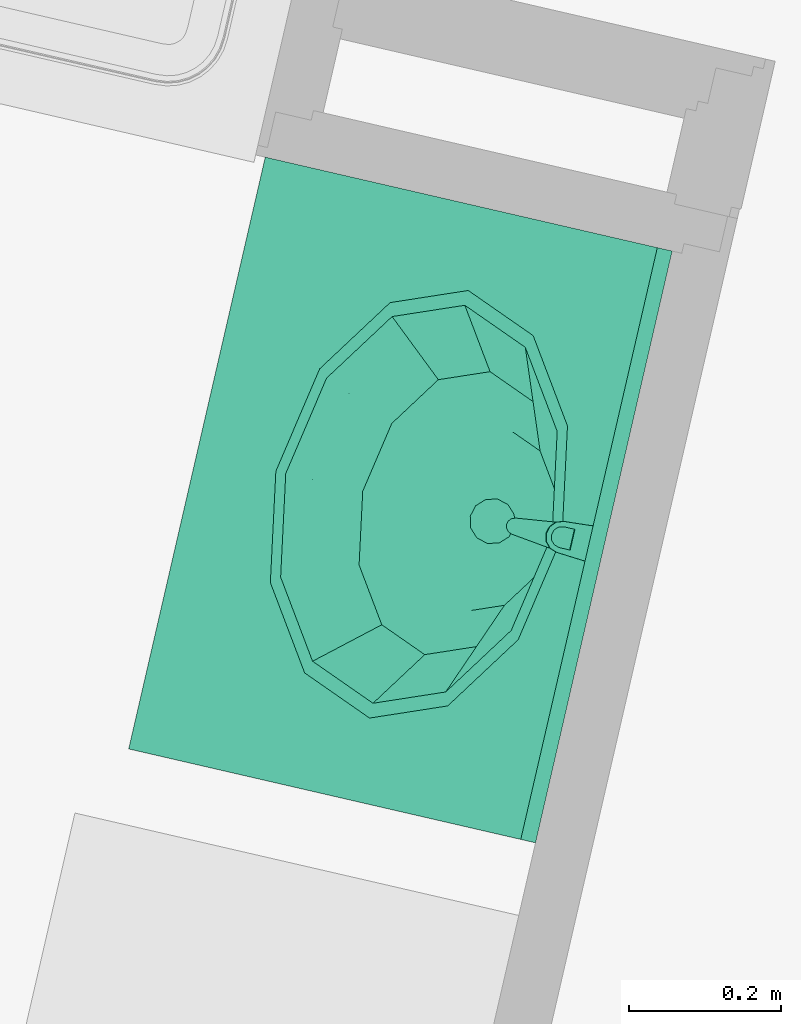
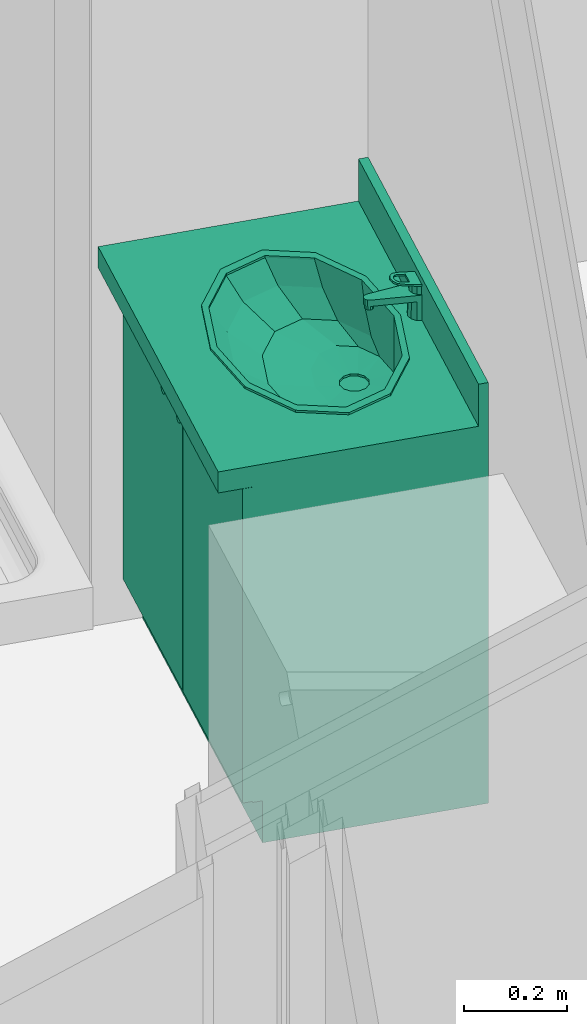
# One storey, part 93 of 119: 1 flow terminal.
"""IFC2X3 building model written with IfcOpenShell, lengths in metres."""

from ifc_helpers import new_model, entity, si_unit, converted_unit, derived_unit, money_unit, direction, frame, origin_with_axes, place, context, subcontext, project, spatial, open_shell, faceted_brep, surface_model, source, transform, mapped, type_object, element, save


model = new_model("IFC2X3")

# Units and contexts
model_context = context("Model", 3, precision=1e-05, world=origin_with_axes(), true_north=direction((0.0, 1.0)))
body_context = subcontext(model_context, "Body", "Model", "MODEL_VIEW")
ifc_project = project(units=[si_unit("LENGTHUNIT", "METRE"), si_unit("AREAUNIT", "SQUARE_METRE"), si_unit("VOLUMEUNIT", "CUBIC_METRE"), converted_unit("PLANEANGLEUNIT", "DEGREE", entity("IfcPlaneAngleMeasure", 0.0174532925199), si_unit("PLANEANGLEUNIT", "RADIAN"), dimensions=[0, 0, 0, 0, 0, 0, 0]), si_unit("SOLIDANGLEUNIT", "STERADIAN"), money_unit("EUR"), converted_unit("TIMEUNIT", "Year", entity("IfcTimeMeasure", 31556926.0), si_unit("TIMEUNIT", "SECOND"), dimensions=[0, 0, 1, 0, 0, 0, 0]), si_unit("MASSUNIT", "GRAM", prefix="KILO"), si_unit("THERMODYNAMICTEMPERATUREUNIT", "DEGREE_CELSIUS"), si_unit("LUMINOUSINTENSITYUNIT", "LUMEN"), si_unit("ENERGYUNIT", "JOULE", prefix="MEGA"), derived_unit("THERMALCONDUCTANCEUNIT", [(si_unit("POWERUNIT", "WATT"), 1), (si_unit("LENGTHUNIT", "METRE"), -1), (si_unit("THERMODYNAMICTEMPERATUREUNIT", "KELVIN"), -1)]), derived_unit("SPECIFICHEATCAPACITYUNIT", [(si_unit("ENERGYUNIT", "JOULE"), 1), (si_unit("MASSUNIT", "GRAM", prefix="KILO"), -1), (si_unit("THERMODYNAMICTEMPERATUREUNIT", "KELVIN"), -1)]), derived_unit("MASSDENSITYUNIT", [(si_unit("MASSUNIT", "GRAM", prefix="KILO"), 1), (si_unit("VOLUMEUNIT", "CUBIC_METRE"), -1)])], contexts=[model_context])

# Site, building, storey
site_placement = place(None, origin_with_axes())
site = spatial("IfcSite", under=ifc_project, at=site_placement, Name="Site", CompositionType="ELEMENT")
building_placement = place(site_placement, origin_with_axes())
building = spatial("IfcBuilding", under=site, at=building_placement, Name="Bâtiment", CompositionType="ELEMENT")
storey_placement = place(building_placement, origin_with_axes())
storey = spatial("IfcBuildingStorey", under=building, at=storey_placement, Name="Rez-de-chaussée", CompositionType="ELEMENT", Elevation=0.0)

# Flow terminal
sanitary_terminal_type = type_object("IfcSanitaryTerminalType", Name="Lavabo sur meuble 23", PredefinedType="NOTDEFINED")
shared_shape = source(origin_with_axes(), body_context, "Body", "SurfaceModel", [
    faceted_brep([(0.0, 0.09, 0.0), (0.0, 0.09, 0.1), (-0.8, 0.09, 0.1), (-0.8, 0.09, 0.0), (0.0, 0.55, 0.0), (0.0, 0.55, 0.1), (-0.8, 0.55, 0.1), (-0.8, 0.55, 0.0)], [[[0, 1, 2, 3]], [[4, 5, 1, 0]], [[1, 5, 6, 2]], [[3, 2, 6, 7]], [[0, 3, 7, 4]], [[7, 6, 5, 4]]]),
    faceted_brep([(0.0, 0.07, 0.1), (0.0, 0.07, 0.12), (-0.02, 0.07, 0.12), (-0.02, 0.07, 0.1), (0.0, 0.55, 0.1), (0.0, 0.55, 0.12), (-0.02, 0.55, 0.12), (-0.78, 0.55, 0.12), (-0.8, 0.55, 0.12), (-0.8, 0.07, 0.12), (-0.78, 0.07, 0.12), (-0.78, 0.07, 0.1), (-0.8, 0.07, 0.1), (-0.8, 0.55, 0.1), (-0.78, 0.55, 0.1), (-0.02, 0.55, 0.1)], [[[0, 1, 2, 3]], [[4, 5, 1, 0]], [[1, 5, 6, 7, 8, 9, 10, 2]], [[3, 2, 10, 11]], [[0, 3, 11, 12, 13, 14, 15, 4]], [[15, 6, 5, 4]], [[14, 7, 6, 15]], [[13, 8, 7, 14]], [[12, 9, 8, 13]], [[11, 10, 9, 12]]]),
    faceted_brep([(0.0, 0.07, 0.12), (0.0, 0.07, 0.85), (-0.02, 0.07, 0.85), (-0.02, 0.07, 0.12), (0.0, 0.55, 0.12), (0.0, 0.55, 0.85), (-0.8, 0.55, 0.85), (-0.8, 0.07, 0.85), (-0.78, 0.07, 0.85), (-0.78, 0.53, 0.85), (-0.02, 0.53, 0.85), (-0.02, 0.53, 0.12), (-0.78, 0.53, 0.12), (-0.78, 0.07, 0.12), (-0.8, 0.07, 0.12), (-0.8, 0.55, 0.12)], [[[0, 1, 2, 3]], [[4, 5, 1, 0]], [[1, 5, 6, 7, 8, 9, 10, 2]], [[3, 2, 10, 11]], [[0, 3, 11, 12, 13, 14, 15, 4]], [[15, 6, 5, 4]], [[14, 7, 6, 15]], [[13, 8, 7, 14]], [[12, 9, 8, 13]], [[11, 10, 9, 12]]]),
    faceted_brep([(-0.78, 0.07, 0.323333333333), (-0.78, 0.07, 0.343333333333), (-0.78, 0.53, 0.343333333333), (-0.78, 0.53, 0.323333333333), (-0.02, 0.07, 0.323333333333), (-0.02, 0.07, 0.343333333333), (-0.02, 0.53, 0.343333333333), (-0.02, 0.53, 0.323333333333)], [[[0, 1, 2, 3]], [[4, 5, 1, 0]], [[1, 5, 6, 2]], [[3, 2, 6, 7]], [[0, 3, 7, 4]], [[7, 6, 5, 4]]]),
    faceted_brep([(-0.78, 0.07, 0.566666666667), (-0.78, 0.07, 0.586666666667), (-0.78, 0.53, 0.586666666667), (-0.78, 0.53, 0.566666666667), (-0.02, 0.07, 0.566666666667), (-0.02, 0.07, 0.586666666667), (-0.02, 0.53, 0.586666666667), (-0.02, 0.53, 0.566666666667)], [[[0, 1, 2, 3]], [[4, 5, 1, 0]], [[1, 5, 6, 2]], [[3, 2, 6, 7]], [[0, 3, 7, 4]], [[7, 6, 5, 4]]]),
    faceted_brep([(0.0, 0.55, 0.85), (0.0, 0.0, 0.85), (-0.8, 0.0, 0.85), (-0.8, 0.55, 0.85), (-0.535, 0.144115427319, 0.85), (-0.4, 0.12, 0.85), (-0.265, 0.144115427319, 0.85), (-0.166173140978, 0.21, 0.85), (-0.13, 0.3, 0.85), (-0.166173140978, 0.39, 0.85), (-0.265, 0.455884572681, 0.85), (-0.4, 0.48, 0.85), (-0.535, 0.455884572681, 0.85), (-0.633826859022, 0.39, 0.85), (-0.67, 0.3, 0.85), (-0.633826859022, 0.21, 0.85), (0.0, 0.55, 0.9), (0.0, 0.0, 0.9), (-0.8, 0.0, 0.9), (-0.8, 0.55, 0.9), (-0.4, 0.12, 0.9), (-0.535, 0.144115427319, 0.9), (-0.265, 0.144115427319, 0.9), (-0.166173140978, 0.21, 0.9), (-0.13, 0.3, 0.9), (-0.166173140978, 0.39, 0.9), (-0.265, 0.455884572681, 0.9), (-0.4, 0.48, 0.9), (-0.535, 0.455884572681, 0.9), (-0.633826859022, 0.39, 0.9), (-0.67, 0.3, 0.9), (-0.633826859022, 0.21, 0.9)], [[[0, 1, 2, 3], [4, 5, 6, 7, 8, 9, 10, 11, 12, 13, 14, 15]], [[1, 0, 16, 17]], [[2, 1, 17, 18]], [[3, 2, 18, 19]], [[0, 3, 19, 16]], [[20, 5, 4, 21]], [[22, 6, 5, 20]], [[23, 7, 6, 22]], [[24, 8, 7, 23]], [[25, 9, 8, 24]], [[26, 10, 9, 25]], [[27, 11, 10, 26]], [[28, 12, 11, 27]], [[29, 13, 12, 28]], [[30, 14, 13, 29]], [[31, 15, 14, 30]], [[21, 4, 15, 31]], [[18, 17, 16, 19], [28, 27, 26, 25, 24, 23, 22, 20, 21, 31, 30, 29]]]),
    faceted_brep([(0.0, 0.53, 0.9), (0.0, 0.53, 1.0), (-0.8, 0.53, 1.0), (-0.8, 0.53, 0.9), (0.0, 0.55, 0.9), (0.0, 0.55, 1.0), (-0.8, 0.55, 1.0), (-0.8, 0.55, 0.9)], [[[0, 1, 2, 3]], [[4, 5, 1, 0]], [[1, 5, 6, 2]], [[3, 2, 6, 7]], [[0, 3, 7, 4]], [[7, 6, 5, 4]]]),
    faceted_brep([(-0.689, 0.3, 0.905), (-0.650281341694, 0.396691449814, 0.905), (-0.650281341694, 0.396691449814, 0.9), (-0.689, 0.3, 0.9), (-0.650281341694, 0.203308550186, 0.905), (-0.5445, 0.132525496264, 0.905), (-0.4, 0.106617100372, 0.905), (-0.2555, 0.132525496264, 0.905), (-0.149718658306, 0.203308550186, 0.905), (-0.111, 0.3, 0.905), (-0.149718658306, 0.396691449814, 0.905), (-0.2555, 0.467474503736, 0.905), (-0.4, 0.493382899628, 0.905), (-0.5445, 0.467474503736, 0.905), (-0.669, 0.3, 0.905), (-0.632960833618, 0.39, 0.905), (-0.5345, 0.455884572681, 0.905), (-0.4, 0.48, 0.905), (-0.2655, 0.455884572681, 0.905), (-0.167039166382, 0.39, 0.905), (-0.131, 0.3, 0.905), (-0.167039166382, 0.21, 0.905), (-0.2655, 0.144115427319, 0.905), (-0.4, 0.12, 0.905), (-0.5345, 0.144115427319, 0.905), (-0.632960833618, 0.21, 0.905), (-0.5445, 0.467474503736, 0.9), (-0.4, 0.493382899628, 0.9), (-0.2555, 0.467474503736, 0.9), (-0.149718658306, 0.396691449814, 0.9), (-0.111, 0.3, 0.9), (-0.149718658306, 0.203308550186, 0.9), (-0.2555, 0.132525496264, 0.9), (-0.4, 0.106617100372, 0.9), (-0.5445, 0.132525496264, 0.9), (-0.650281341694, 0.203308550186, 0.9), (-0.669, 0.3, 0.9), (-0.632960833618, 0.21, 0.9), (-0.5345, 0.144115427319, 0.9), (-0.4, 0.12, 0.9), (-0.2655, 0.144115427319, 0.9), (-0.167039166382, 0.21, 0.9), (-0.131, 0.3, 0.9), (-0.167039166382, 0.39, 0.9), (-0.2655, 0.455884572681, 0.9), (-0.4, 0.48, 0.9), (-0.5345, 0.455884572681, 0.9), (-0.632960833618, 0.39, 0.9)], [[[0, 1, 2, 3]], [[0, 4, 5, 6, 7, 8, 9, 10, 11, 12, 13, 1], [14, 15, 16, 17, 18, 19, 20, 21, 22, 23, 24, 25]], [[1, 13, 26, 2]], [[3, 2, 26, 27, 28, 29, 30, 31, 32, 33, 34, 35], [36, 37, 38, 39, 40, 41, 42, 43, 44, 45, 46, 47]], [[4, 0, 3, 35]], [[5, 4, 35, 34]], [[6, 5, 34, 33]], [[7, 6, 33, 32]], [[8, 7, 32, 31]], [[9, 8, 31, 30]], [[10, 9, 30, 29]], [[11, 10, 29, 28]], [[12, 11, 28, 27]], [[13, 12, 27, 26]], [[15, 14, 36, 47]], [[16, 15, 47, 46]], [[17, 16, 46, 45]], [[18, 17, 45, 44]], [[19, 18, 44, 43]], [[20, 19, 43, 42]], [[21, 20, 42, 41]], [[22, 21, 41, 40]], [[23, 22, 40, 39]], [[24, 23, 39, 38]], [[25, 24, 38, 37]], [[14, 25, 37, 36]]]),
    surface_model("IfcShellBasedSurfaceModel", [(-0.4, 0.48, 0.9), (-0.5345, 0.455884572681, 0.9), (-0.52105, 0.458296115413, 0.848), (-0.4, 0.48, 0.848), (-0.632960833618, 0.39, 0.9), (-0.609664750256, 0.399, 0.848), (-0.2655, 0.455884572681, 0.9), (-0.27895, 0.458296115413, 0.848), (-0.669, 0.3, 0.9), (-0.6421, 0.318, 0.848), (-0.167039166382, 0.39, 0.9), (-0.190335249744, 0.399, 0.848), (-0.632960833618, 0.21, 0.9), (-0.609664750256, 0.237, 0.848), (-0.131, 0.3, 0.9), (-0.1579, 0.318, 0.848), (-0.5345, 0.144115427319, 0.9), (-0.52105, 0.177703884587, 0.848), (-0.167039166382, 0.21, 0.9), (-0.190335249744, 0.237, 0.848), (-0.4, 0.12, 0.9), (-0.4, 0.156, 0.848), (-0.2655, 0.144115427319, 0.9), (-0.27895, 0.177703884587, 0.848)], [open_shell([[[0, 1, 2, 3]], [[1, 4, 5, 2]], [[6, 0, 3, 7]], [[4, 8, 9, 5]], [[10, 6, 7, 11]], [[8, 12, 13, 9]], [[14, 10, 11, 15]], [[12, 16, 17, 13]], [[18, 14, 15, 19]], [[16, 20, 21, 17]], [[22, 18, 19, 23]], [[20, 22, 23, 21]]])]),
    surface_model("IfcShellBasedSurfaceModel", [(-0.4, 0.48, 0.848), (-0.52105, 0.458296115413, 0.848), (-0.4956295, 0.462853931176, 0.796), (-0.4, 0.48, 0.796), (-0.609664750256, 0.399, 0.848), (-0.565635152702, 0.41601, 0.796), (-0.27895, 0.458296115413, 0.848), (-0.3043705, 0.462853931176, 0.796), (-0.6421, 0.318, 0.848), (-0.591259, 0.35202, 0.796), (-0.190335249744, 0.399, 0.848), (-0.234364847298, 0.41601, 0.796), (-0.609664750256, 0.237, 0.848), (-0.565635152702, 0.28803, 0.796), (-0.1579, 0.318, 0.848), (-0.208741, 0.35202, 0.796), (-0.52105, 0.177703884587, 0.848), (-0.4956295, 0.241186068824, 0.796), (-0.190335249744, 0.237, 0.848), (-0.234364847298, 0.28803, 0.796), (-0.4, 0.156, 0.848), (-0.4, 0.22404, 0.796), (-0.27895, 0.177703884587, 0.848), (-0.3043705, 0.241186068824, 0.796)], [open_shell([[[0, 1, 2, 3]], [[1, 4, 5, 2]], [[6, 0, 3, 7]], [[4, 8, 9, 5]], [[10, 6, 7, 11]], [[8, 12, 13, 9]], [[14, 10, 11, 15]], [[12, 16, 17, 13]], [[18, 14, 15, 19]], [[16, 20, 21, 17]], [[22, 18, 19, 23]], [[20, 22, 23, 21]]])]),
    surface_model("IfcShellBasedSurfaceModel", [(-0.4, 0.48, 0.796), (-0.4956295, 0.462853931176, 0.796), (-0.460246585, 0.469197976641, 0.77), (-0.4, 0.48, 0.77), (-0.565635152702, 0.41601, 0.796), (-0.504350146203, 0.4396863, 0.77), (-0.3043705, 0.462853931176, 0.796), (-0.339753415, 0.469197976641, 0.77), (-0.591259, 0.35202, 0.796), (-0.52049317, 0.3993726, 0.77), (-0.234364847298, 0.41601, 0.796), (-0.295649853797, 0.4396863, 0.77), (-0.565635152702, 0.28803, 0.796), (-0.504350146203, 0.3590589, 0.77), (-0.208741, 0.35202, 0.796), (-0.27950683, 0.3993726, 0.77), (-0.4956295, 0.241186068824, 0.796), (-0.460246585, 0.329547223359, 0.77), (-0.234364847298, 0.28803, 0.796), (-0.295649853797, 0.3590589, 0.77), (-0.4, 0.22404, 0.796), (-0.4, 0.3187452, 0.77), (-0.3043705, 0.241186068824, 0.796), (-0.339753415, 0.329547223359, 0.77)], [open_shell([[[0, 1, 2, 3]], [[1, 4, 5, 2]], [[6, 0, 3, 7]], [[4, 8, 9, 5]], [[10, 6, 7, 11]], [[8, 12, 13, 9]], [[14, 10, 11, 15]], [[12, 16, 17, 13]], [[18, 14, 15, 19]], [[16, 20, 21, 17]], [[22, 18, 19, 23]], [[20, 22, 23, 21]]])]),
    surface_model("IfcShellBasedSurfaceModel", [(-0.4, 0.48, 0.77), (-0.460246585, 0.469197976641, 0.77), (-0.415, 0.425353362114, 0.763), (-0.425980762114, 0.4143726, 0.763), (-0.4, 0.4293726, 0.763), (-0.504350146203, 0.4396863, 0.77), (-0.339753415, 0.469197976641, 0.77), (-0.43, 0.3993726, 0.763), (-0.385, 0.425353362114, 0.763), (-0.52049317, 0.3993726, 0.77), (-0.295649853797, 0.4396863, 0.77), (-0.425980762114, 0.3843726, 0.763), (-0.374019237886, 0.4143726, 0.763), (-0.504350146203, 0.3590589, 0.77), (-0.27950683, 0.3993726, 0.77), (-0.415, 0.373391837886, 0.763), (-0.37, 0.3993726, 0.763), (-0.460246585, 0.329547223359, 0.77), (-0.295649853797, 0.3590589, 0.77), (-0.4, 0.3693726, 0.763), (-0.374019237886, 0.3843726, 0.763), (-0.4, 0.3187452, 0.77), (-0.339753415, 0.329547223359, 0.77), (-0.385, 0.373391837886, 0.763)], [open_shell([[[0, 1, 2]], [[1, 3, 2]], [[0, 2, 4]], [[1, 5, 3]], [[6, 0, 4]], [[5, 7, 3]], [[6, 4, 8]], [[5, 9, 7]], [[10, 6, 8]], [[9, 11, 7]], [[10, 8, 12]], [[9, 13, 11]], [[14, 10, 12]], [[13, 15, 11]], [[14, 12, 16]], [[13, 17, 15]], [[18, 14, 16]], [[17, 19, 15]], [[18, 16, 20]], [[17, 21, 19]], [[22, 18, 20]], [[21, 23, 19]], [[22, 20, 23]], [[21, 22, 23]]])]),
    surface_model("IfcShellBasedSurfaceModel", [(-0.43, 0.3993726, 0.763), (-0.425980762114, 0.4143726, 0.763), (-0.425980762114, 0.4143726, 0.758), (-0.43, 0.3993726, 0.758), (-0.415, 0.425353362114, 0.763), (-0.415, 0.425353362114, 0.758), (-0.4, 0.4293726, 0.758), (-0.385, 0.425353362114, 0.758), (-0.374019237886, 0.4143726, 0.758), (-0.37, 0.3993726, 0.758), (-0.374019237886, 0.3843726, 0.758), (-0.385, 0.373391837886, 0.758), (-0.4, 0.3693726, 0.758), (-0.415, 0.373391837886, 0.758), (-0.425980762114, 0.3843726, 0.758), (-0.425980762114, 0.3843726, 0.763), (-0.4, 0.4293726, 0.763), (-0.385, 0.425353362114, 0.763), (-0.374019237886, 0.4143726, 0.763), (-0.37, 0.3993726, 0.763), (-0.374019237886, 0.3843726, 0.763), (-0.385, 0.373391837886, 0.763), (-0.4, 0.3693726, 0.763), (-0.415, 0.373391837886, 0.763)], [open_shell([[[0, 1, 2, 3]], [[1, 4, 5, 2]], [[3, 2, 5, 6, 7, 8, 9, 10, 11, 12, 13, 14]], [[15, 0, 3, 14]], [[4, 16, 6, 5]], [[16, 17, 7, 6]], [[17, 18, 8, 7]], [[18, 19, 9, 8]], [[19, 20, 10, 9]], [[20, 21, 11, 10]], [[21, 22, 12, 11]], [[22, 23, 13, 12]], [[23, 15, 14, 13]]])]),
    faceted_brep([(-0.4125, 0.554150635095, 0.9), (-0.410587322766, 0.550837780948, 0.976507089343), (-0.4, 0.553701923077, 0.975961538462), (-0.4, 0.5575, 0.9), (-0.421650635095, 0.545, 0.9), (-0.418273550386, 0.543050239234, 0.977990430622), (-0.421, 0.5325, 0.98), (-0.418100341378, 0.522049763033, 0.981990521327), (-0.410414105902, 0.514462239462, 0.983435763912), (-0.4, 0.511698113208, 0.983962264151), (-0.389585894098, 0.514462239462, 0.983435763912), (-0.381899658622, 0.522049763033, 0.981990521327), (-0.379, 0.5325, 0.98), (-0.381726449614, 0.543050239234, 0.977990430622), (-0.389412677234, 0.550837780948, 0.976507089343), (-0.3875, 0.554150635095, 0.9), (-0.378349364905, 0.545, 0.9), (-0.375, 0.5325, 0.9), (-0.378349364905, 0.52, 0.9), (-0.3875, 0.510849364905, 0.9), (-0.4, 0.5075, 0.9), (-0.4125, 0.510849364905, 0.9), (-0.421650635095, 0.52, 0.9), (-0.425, 0.5325, 0.9)], [[[0, 1, 2, 3]], [[4, 5, 1, 0]], [[1, 5, 6, 7, 8, 9, 10, 11, 12, 13, 14, 2]], [[3, 2, 14, 15]], [[0, 3, 15, 16, 17, 18, 19, 20, 21, 22, 23, 4]], [[23, 6, 5, 4]], [[22, 7, 6, 23]], [[21, 8, 7, 22]], [[20, 9, 8, 21]], [[19, 10, 9, 20]], [[18, 11, 10, 19]], [[17, 12, 11, 18]], [[16, 13, 12, 17]], [[15, 14, 13, 16]]]),
    faceted_brep([(-0.409, 0.4295, 0.935), (-0.409, 0.4295, 0.945), (-0.407794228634, 0.434, 0.945), (-0.407794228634, 0.434, 0.935), (-0.407794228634, 0.425, 0.935), (-0.407794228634, 0.425, 0.945), (-0.4045, 0.421705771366, 0.945), (-0.4, 0.4205, 0.945), (-0.3955, 0.421705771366, 0.945), (-0.392205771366, 0.425, 0.945), (-0.391, 0.4295, 0.945), (-0.392205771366, 0.434, 0.945), (-0.3955, 0.437294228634, 0.945), (-0.4, 0.4385, 0.945), (-0.4045, 0.437294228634, 0.945), (-0.4045, 0.437294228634, 0.935), (-0.4, 0.4385, 0.935), (-0.3955, 0.437294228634, 0.935), (-0.392205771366, 0.434, 0.935), (-0.391, 0.4295, 0.935), (-0.392205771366, 0.425, 0.935), (-0.3955, 0.421705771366, 0.935), (-0.4, 0.4205, 0.935), (-0.4045, 0.421705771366, 0.935)], [[[0, 1, 2, 3]], [[4, 5, 1, 0]], [[1, 5, 6, 7, 8, 9, 10, 11, 12, 13, 14, 2]], [[3, 2, 14, 15]], [[0, 3, 15, 16, 17, 18, 19, 20, 21, 22, 23, 4]], [[23, 6, 5, 4]], [[22, 7, 6, 23]], [[21, 8, 7, 22]], [[20, 9, 8, 21]], [[19, 10, 9, 20]], [[18, 11, 10, 19]], [[17, 12, 11, 18]], [[16, 13, 12, 17]], [[15, 14, 13, 16]]]),
    faceted_brep([(-0.387128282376, 0.552756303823, 0.96), (-0.40000000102, 0.556499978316, 0.96), (-0.412871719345, 0.552756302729, 0.96), (-0.421727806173, 0.542693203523, 0.96), (-0.423805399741, 0.529450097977, 0.96), (-0.410912, 0.4281117, 0.96), (-0.409028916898, 0.423216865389, 0.96), (-0.405093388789, 0.419750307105, 0.96), (-0.400000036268, 0.41850003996, 0.96), (-0.394906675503, 0.419750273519, 0.96), (-0.390971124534, 0.423216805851, 0.96), (-0.389088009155, 0.428111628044, 0.96), (-0.3761946, 0.5294501, 0.96), (-0.378272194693, 0.54269320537, 0.96), (-0.411, 0.551552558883, 0.96), (-0.4, 0.5545, 0.96), (-0.389, 0.551552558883, 0.96), (-0.380947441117, 0.5435, 0.96), (-0.378, 0.5325, 0.96), (-0.380947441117, 0.5215, 0.96), (-0.389, 0.513447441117, 0.96), (-0.4, 0.5105, 0.96), (-0.411, 0.513447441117, 0.96), (-0.419052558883, 0.5215, 0.96), (-0.422, 0.5325, 0.96), (-0.419052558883, 0.5435, 0.96), (-0.387128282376, 0.552756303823, 0.945), (-0.40000000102, 0.556499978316, 0.945), (-0.412871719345, 0.552756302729, 0.945), (-0.421727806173, 0.542693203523, 0.945), (-0.423805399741, 0.529450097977, 0.945), (-0.410912, 0.4281117, 0.945), (-0.409028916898, 0.423216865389, 0.945), (-0.405093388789, 0.419750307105, 0.945), (-0.400000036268, 0.41850003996, 0.945), (-0.394906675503, 0.419750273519, 0.945), (-0.390971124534, 0.423216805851, 0.945), (-0.389088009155, 0.428111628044, 0.945), (-0.3761946, 0.5294501, 0.945), (-0.378272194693, 0.54269320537, 0.945), (-0.4, 0.55525, 0.945), (-0.411375, 0.552202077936, 0.945), (-0.388625, 0.552202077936, 0.945), (-0.380297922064, 0.543875, 0.945), (-0.37725, 0.5325, 0.945), (-0.380297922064, 0.521125, 0.945), (-0.388625, 0.512797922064, 0.945), (-0.4, 0.50975, 0.945), (-0.411375, 0.512797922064, 0.945), (-0.419702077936, 0.521125, 0.945), (-0.42275, 0.5325, 0.945), (-0.419702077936, 0.543875, 0.945)], [[[0, 1, 2, 3, 4, 5, 6, 7, 8, 9, 10, 11, 12, 13], [14, 15, 16, 17, 18, 19, 20, 21, 22, 23, 24, 25]], [[26, 27, 1, 0]], [[27, 28, 2, 1]], [[28, 29, 3, 2]], [[29, 30, 4, 3]], [[30, 31, 5, 4]], [[31, 32, 6, 5]], [[32, 33, 7, 6]], [[33, 34, 8, 7]], [[34, 35, 9, 8]], [[35, 36, 10, 9]], [[36, 37, 11, 10]], [[37, 38, 12, 11]], [[38, 39, 13, 12]], [[39, 26, 0, 13]], [[40, 15, 14, 41]], [[42, 16, 15, 40]], [[16, 42, 43, 17]], [[17, 43, 44, 18]], [[18, 44, 45, 19]], [[19, 45, 46, 20]], [[20, 46, 47, 21]], [[48, 22, 21, 47]], [[49, 23, 22, 48]], [[50, 24, 23, 49]], [[51, 25, 24, 50]], [[41, 14, 25, 51]], [[34, 33, 32, 31, 30, 29, 28, 27, 26, 39, 38, 37, 36, 35], [48, 47, 46, 45, 44, 43, 42, 40, 41, 51, 50, 49]]]),
    faceted_brep([(-0.423893, 0.53080743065, 0.980322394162), (-0.423893, 0.531555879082, 0.984251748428), (-0.421296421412, 0.544023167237, 0.981877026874), (-0.421296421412, 0.543274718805, 0.977947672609), (-0.420945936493, 0.490663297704, 0.987968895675), (-0.420945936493, 0.491411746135, 0.991898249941), (-0.417663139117, 0.48173408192, 0.993741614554), (-0.410061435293, 0.47478470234, 0.995065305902), (-0.399999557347, 0.472262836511, 0.995545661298), (-0.389937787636, 0.474785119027, 0.995065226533), (-0.382336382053, 0.481734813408, 0.993741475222), (-0.379054, 0.491412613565, 0.991898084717), (-0.376106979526, 0.531556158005, 0.984251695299), (-0.378703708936, 0.544023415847, 0.98187697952), (-0.38752831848, 0.553339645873, 0.980102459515), (-0.400000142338, 0.556780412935, 0.979447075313), (-0.41247192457, 0.553339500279, 0.980102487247), (-0.414, 0.507707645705, 0.988794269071), (-0.386, 0.507707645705, 0.988794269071), (-0.386, 0.492892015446, 0.991616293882), (-0.387875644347, 0.486015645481, 0.992926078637), (-0.393, 0.480981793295, 0.993884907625), (-0.4, 0.479139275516, 0.994235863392), (-0.407, 0.480981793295, 0.993884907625), (-0.412124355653, 0.486015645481, 0.992926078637), (-0.414, 0.492892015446, 0.991616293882), (-0.41247192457, 0.552591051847, 0.976173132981), (-0.400000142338, 0.556031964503, 0.975517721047), (-0.38752831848, 0.552591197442, 0.976173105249), (-0.378703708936, 0.543274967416, 0.977947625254), (-0.376106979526, 0.530807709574, 0.980322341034), (-0.379054, 0.490664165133, 0.987968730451), (-0.382336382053, 0.480986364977, 0.989812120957), (-0.389937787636, 0.474036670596, 0.991135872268), (-0.399999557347, 0.47151438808, 0.991616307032), (-0.410061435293, 0.474036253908, 0.991135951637), (-0.417663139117, 0.480985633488, 0.989812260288), (-0.414, 0.506959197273, 0.984864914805), (-0.414, 0.492143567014, 0.987686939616), (-0.412124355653, 0.485267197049, 0.988996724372), (-0.407, 0.480233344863, 0.989955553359), (-0.4, 0.478390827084, 0.990306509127), (-0.393, 0.480233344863, 0.989955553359), (-0.387875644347, 0.485267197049, 0.988996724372), (-0.386, 0.492143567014, 0.987686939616), (-0.386, 0.506959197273, 0.984864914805)], [[[0, 1, 2, 3]], [[4, 5, 1, 0]], [[1, 5, 6, 7, 8, 9, 10, 11, 12, 13, 14, 15, 16, 2], [17, 18, 19, 20, 21, 22, 23, 24, 25]], [[3, 2, 16, 26]], [[0, 3, 26, 27, 28, 29, 30, 31, 32, 33, 34, 35, 36, 4], [37, 38, 39, 40, 41, 42, 43, 44, 45]], [[36, 6, 5, 4]], [[35, 7, 6, 36]], [[34, 8, 7, 35]], [[33, 9, 8, 34]], [[32, 10, 9, 33]], [[31, 11, 10, 32]], [[30, 12, 11, 31]], [[29, 13, 12, 30]], [[28, 14, 13, 29]], [[27, 15, 14, 28]], [[26, 16, 15, 27]], [[45, 18, 17, 37]], [[44, 19, 18, 45]], [[43, 20, 19, 44]], [[42, 21, 20, 43]], [[41, 22, 21, 42]], [[40, 23, 22, 41]], [[39, 24, 23, 40]], [[38, 25, 24, 39]], [[37, 17, 25, 38]]]),
    faceted_brep([(-0.0015, 0.07, 0.1015), (-0.0015, 0.05, 0.1015), (-0.3985, 0.05, 0.1015), (-0.3985, 0.07, 0.1015), (-0.0015, 0.07, 0.8485), (-0.0015, 0.05, 0.8485), (-0.3985, 0.05, 0.8485), (-0.3985, 0.07, 0.8485)], [[[0, 1, 2, 3]], [[4, 5, 1, 0]], [[1, 5, 6, 2]], [[3, 2, 6, 7]], [[0, 3, 7, 4]], [[7, 6, 5, 4]]]),
    faceted_brep([(-0.358892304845, 0.05, 0.7855), (-0.3605, 0.05, 0.7915), (-0.358892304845, 0.05, 0.7975), (-0.3545, 0.05, 0.801892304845), (-0.3485, 0.05, 0.8035), (-0.3425, 0.05, 0.801892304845), (-0.338107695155, 0.05, 0.7975), (-0.3365, 0.05, 0.7915), (-0.338107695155, 0.05, 0.7855), (-0.3425, 0.05, 0.781107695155), (-0.3485, 0.05, 0.7795), (-0.3545, 0.05, 0.781107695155), (-0.358892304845, 0.025, 0.7855), (-0.3605, 0.025, 0.7915), (-0.358892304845, 0.025, 0.7975), (-0.3545, 0.025, 0.801892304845), (-0.3485, 0.025, 0.8035), (-0.3425, 0.025, 0.801892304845), (-0.338107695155, 0.025, 0.7975), (-0.3365, 0.025, 0.7915), (-0.338107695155, 0.025, 0.7855), (-0.3425, 0.025, 0.781107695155), (-0.3485, 0.025, 0.7795), (-0.3545, 0.025, 0.781107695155)], [[[0, 1, 2, 3, 4, 5, 6, 7, 8, 9, 10, 11]], [[0, 12, 13, 1]], [[1, 13, 14, 2]], [[2, 14, 15, 3]], [[3, 15, 16, 4]], [[4, 16, 17, 5]], [[5, 17, 18, 6]], [[6, 18, 19, 7]], [[7, 19, 20, 8]], [[8, 20, 21, 9]], [[9, 21, 22, 10]], [[10, 22, 23, 11]], [[11, 23, 12, 0]], [[12, 23, 22, 21, 20, 19, 18, 17, 16, 15, 14, 13]]]),
    faceted_brep([(-0.7985, 0.07, 0.1015), (-0.4015, 0.07, 0.1015), (-0.4015, 0.05, 0.1015), (-0.7985, 0.05, 0.1015), (-0.7985, 0.07, 0.8485), (-0.4015, 0.07, 0.8485), (-0.4015, 0.05, 0.8485), (-0.7985, 0.05, 0.8485)], [[[0, 1, 2, 3]], [[0, 4, 5, 1]], [[1, 5, 6, 2]], [[3, 2, 6, 7]], [[4, 0, 3, 7]], [[5, 4, 7, 6]]]),
    faceted_brep([(-0.441107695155, 0.05, 0.7855), (-0.4455, 0.05, 0.781107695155), (-0.4515, 0.05, 0.7795), (-0.4575, 0.05, 0.781107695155), (-0.461892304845, 0.05, 0.7855), (-0.4635, 0.05, 0.7915), (-0.461892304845, 0.05, 0.7975), (-0.4575, 0.05, 0.801892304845), (-0.4515, 0.05, 0.8035), (-0.4455, 0.05, 0.801892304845), (-0.441107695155, 0.05, 0.7975), (-0.4395, 0.05, 0.7915), (-0.441107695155, 0.025, 0.7855), (-0.4455, 0.025, 0.781107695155), (-0.4515, 0.025, 0.7795), (-0.4575, 0.025, 0.781107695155), (-0.461892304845, 0.025, 0.7855), (-0.4635, 0.025, 0.7915), (-0.461892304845, 0.025, 0.7975), (-0.4575, 0.025, 0.801892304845), (-0.4515, 0.025, 0.8035), (-0.4455, 0.025, 0.801892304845), (-0.441107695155, 0.025, 0.7975), (-0.4395, 0.025, 0.7915)], [[[0, 1, 2, 3, 4, 5, 6, 7, 8, 9, 10, 11]], [[1, 0, 12, 13]], [[2, 1, 13, 14]], [[3, 2, 14, 15]], [[4, 3, 15, 16]], [[5, 4, 16, 17]], [[6, 5, 17, 18]], [[7, 6, 18, 19]], [[8, 7, 19, 20]], [[9, 8, 20, 21]], [[10, 9, 21, 22]], [[11, 10, 22, 23]], [[0, 11, 23, 12]], [[12, 23, 22, 21, 20, 19, 18, 17, 16, 15, 14, 13]]]),
])
flow_terminal_placement = place(storey_placement, frame((-9.81288364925, -11.1722103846, 0.0), z_axis=(0.0, 0.0, 1.0), x_axis=(-0.224876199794, -0.974387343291, 0.0)))
element("IfcFlowTerminal", 1, at=flow_terminal_placement, inside=storey, type_object=sanitary_terminal_type, Name="MOB-002", ObjectType="SANITARY_TERMINAL", context=body_context, shape_type="MappedRepresentation", body=[
    mapped(shared_shape, transform((0.0, 0.0, 0.0))),
])

save(model, "model.ifc")
